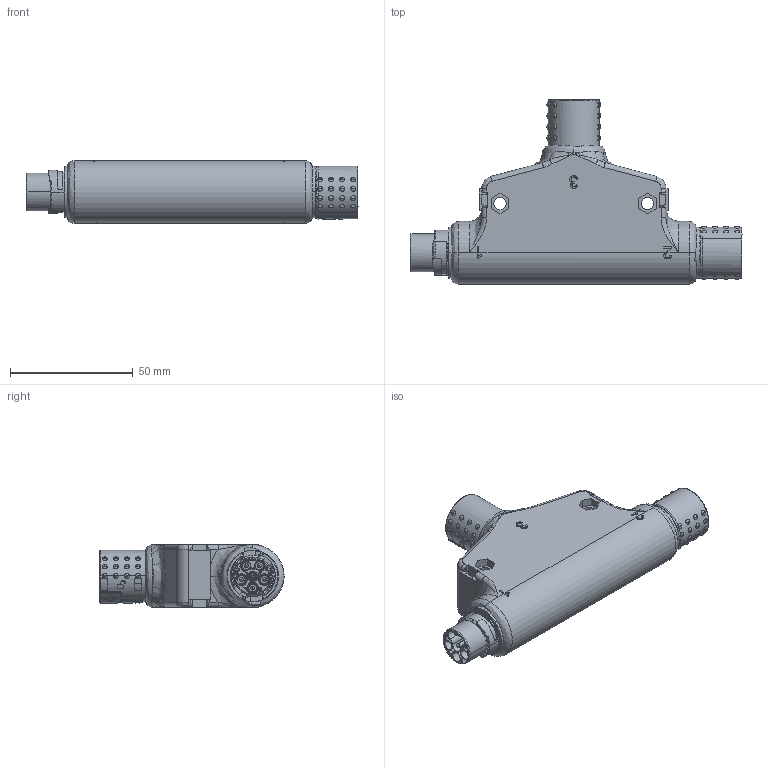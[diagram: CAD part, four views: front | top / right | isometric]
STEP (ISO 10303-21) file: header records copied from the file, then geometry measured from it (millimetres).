
FILE_DESCRIPTION (( 'STEP AP214' ), '1' );
FILE_NAME ('1145373-00000.STEP', '2020-08-05T16:40:07', ( '' ), ( '' ), 'SwSTEP 2.0', 'SolidWorks 2019', '' );
FILE_SCHEMA (( 'AUTOMOTIVE_DESIGN' ));
Length unit declared in the file: millimetre
Products named in the file (1): 1145373-00000
Bounding box: 135.02 x 74.92 x 25.9 mm (x, y, z)
Volume: 108679.9 mm3; surface area: 28861.4 mm2
Topology: 4 solids, 6 shells, 1900 faces, 5105 edges, 3317 vertices
Faces by surface type: plane 791, bspline 537, cylinder 497, torus 48, cone 23, sphere 4
Entity records: 101763 total; most frequent: CARTESIAN_POINT 58257, ORIENTED_EDGE 10114, DIRECTION 7001, EDGE_CURVE 5057, VERTEX_POINT 3316, AXIS2_PLACEMENT_3D 2458, VECTOR 2085, LINE 2085
